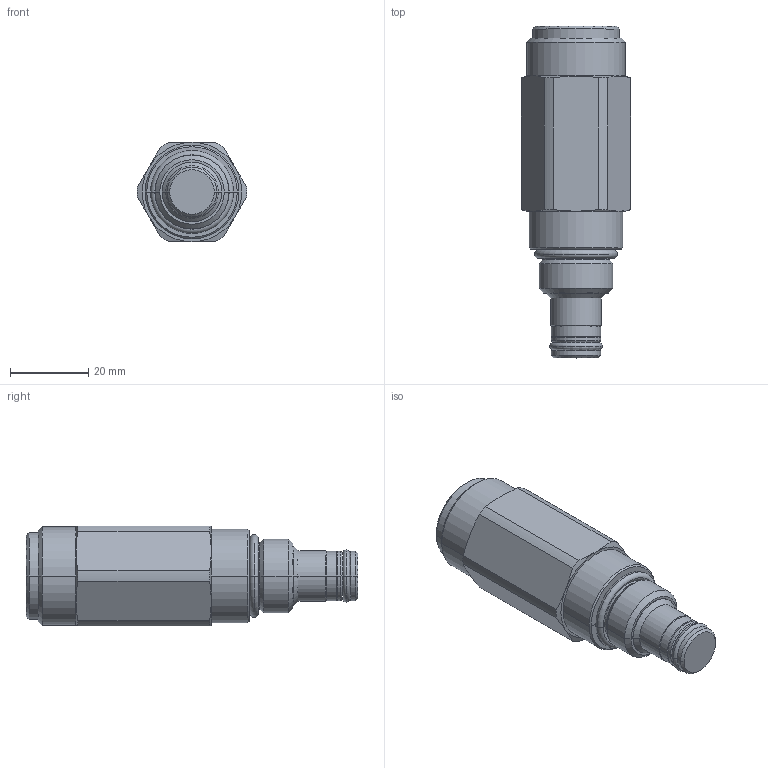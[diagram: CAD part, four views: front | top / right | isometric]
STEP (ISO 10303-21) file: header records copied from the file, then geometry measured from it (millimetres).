
FILE_DESCRIPTION((''),'2;1');
FILE_NAME('PRT0003','2009-03-21T',('JCS'),(''),'PRO/ENGINEER BY PARAMETRIC TECHNOLOGY CORPORATION, 2008510','PRO/ENGINEER BY PARAMETRIC TECHNOLOGY CORPORATION, 2008510','');
FILE_SCHEMA(('CONFIG_CONTROL_DESIGN'));
Length unit declared in the file: inch
Products named in the file (1): PRT0003
Bounding box: 27.94 x 84.76 x 25.4 mm (x, y, z)
Volume: 34636.9 mm3; surface area: 7783.2 mm2
Topology: 4 solids, 4 shells, 102 faces, 226 edges, 130 vertices
Faces by surface type: cylinder 30, cone 30, torus 22, plane 12, revolution 8
Entity records: 3124 total; most frequent: CARTESIAN_POINT 774, DIRECTION 536, ORIENTED_EDGE 452, AXIS2_PLACEMENT_3D 234, EDGE_CURVE 226, CIRCLE 140, VERTEX_POINT 130, EDGE_LOOP 106
